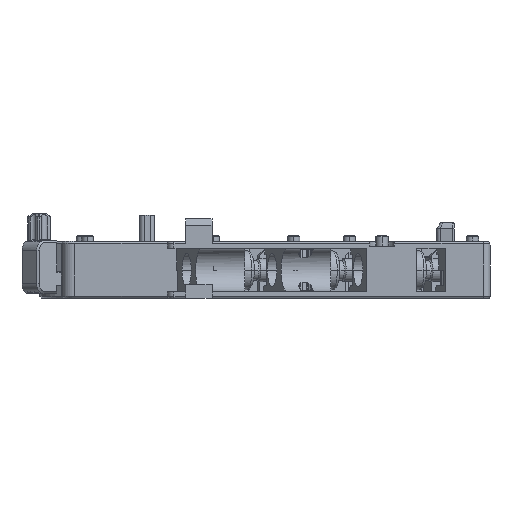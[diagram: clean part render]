
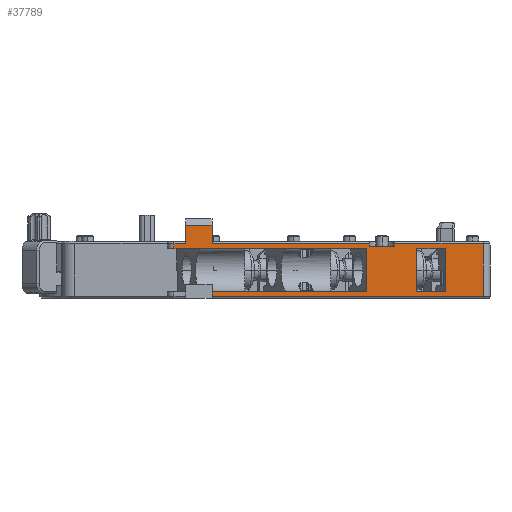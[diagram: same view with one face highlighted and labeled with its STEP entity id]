
A CAD part, left-side view. The second image highlights one B-rep face of the part: STEP entity #37789.
In plain terms, the highlighted planar face has unit normal (-1, 0, 0).
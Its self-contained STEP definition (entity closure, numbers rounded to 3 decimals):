
#649=DIRECTION('',(0.,0.,1.));
#650=VECTOR('',#649,8.05);
#651=CARTESIAN_POINT('',(-48.,-50.5,-4.));
#652=LINE('',#651,#650);
#667=DIRECTION('',(0.,0.,-1.));
#668=VECTOR('',#667,0.75);
#669=CARTESIAN_POINT('',(-48.,-3.2,4.05));
#670=LINE('',#669,#668);
#671=DIRECTION('',(0.,-1.,0.));
#672=VECTOR('',#671,1.81);
#673=CARTESIAN_POINT('',(-48.,-3.2,4.05));
#674=LINE('',#673,#672);
#675=DIRECTION('',(0.,1.,0.));
#676=VECTOR('',#675,4.);
#677=CARTESIAN_POINT('',(-48.,-9.01,6.85));
#678=LINE('',#677,#676);
#679=DIRECTION('',(0.,0.,1.));
#680=VECTOR('',#679,0.4);
#681=CARTESIAN_POINT('',(-48.,-33.1,3.65));
#682=LINE('',#681,#680);
#683=DIRECTION('',(0.,1.,0.));
#684=VECTOR('',#683,3.8);
#685=CARTESIAN_POINT('',(-48.,-36.9,3.65));
#686=LINE('',#685,#684);
#687=DIRECTION('',(0.,0.,1.));
#688=VECTOR('',#687,0.4);
#689=CARTESIAN_POINT('',(-48.,-36.9,3.65));
#690=LINE('',#689,#688);
#691=DIRECTION('',(0.,1.,0.));
#692=VECTOR('',#691,41.478);
#693=CARTESIAN_POINT('',(-48.,-50.5,-4.));
#694=LINE('',#693,#692);
#695=DIRECTION('',(0.,0.,1.));
#696=VECTOR('',#695,0.7);
#697=CARTESIAN_POINT('',(-48.,-9.023,-4.));
#698=LINE('',#697,#696);
#699=DIRECTION('',(0.,1.,0.));
#700=VECTOR('',#699,4.344);
#701=CARTESIAN_POINT('',(-48.,-44.661,-3.3));
#702=LINE('',#701,#700);
#715=DIRECTION('',(0.,0.,-1.));
#716=VECTOR('',#715,6.6);
#717=CARTESIAN_POINT('',(-48.,-32.697,3.3));
#718=LINE('',#717,#716);
#1701=DIRECTION('',(0.,1.,0.));
#1702=VECTOR('',#1701,29.497);
#1703=CARTESIAN_POINT('',(-48.,-32.697,3.3));
#1704=LINE('',#1703,#1702);
#6590=DIRECTION('',(0.,1.,0.));
#6591=VECTOR('',#6590,13.6);
#6592=CARTESIAN_POINT('',(-48.,-50.5,4.05));
#6593=LINE('',#6592,#6591);
#6607=DIRECTION('',(0.,1.,0.));
#6608=VECTOR('',#6607,24.09);
#6609=CARTESIAN_POINT('',(-48.,-33.1,4.05));
#6610=LINE('',#6609,#6608);
#6616=DIRECTION('',(0.,0.,1.));
#6617=VECTOR('',#6616,2.8);
#6618=CARTESIAN_POINT('',(-48.,-9.01,4.05));
#6619=LINE('',#6618,#6617);
#6644=DIRECTION('',(0.,0.,-1.));
#6645=VECTOR('',#6644,2.8);
#6646=CARTESIAN_POINT('',(-48.,-5.01,6.85));
#6647=LINE('',#6646,#6645);
#7783=DIRECTION('',(0.,1.,0.));
#7784=VECTOR('',#7783,23.675);
#7785=CARTESIAN_POINT('',(-48.,-32.697,-3.3));
#7786=LINE('',#7785,#7784);
#21419=DIRECTION('',(0.,0.,-1.));
#21420=VECTOR('',#21419,6.6);
#21421=CARTESIAN_POINT('',(-48.,-44.661,3.3));
#21422=LINE('',#21421,#21420);
#22789=DIRECTION('',(0.,0.,1.));
#22790=VECTOR('',#22789,6.6);
#22791=CARTESIAN_POINT('',(-48.,-40.317,-3.3));
#22792=LINE('',#22791,#22790);
#22801=DIRECTION('',(0.,1.,0.));
#22802=VECTOR('',#22801,4.344);
#22803=CARTESIAN_POINT('',(-48.,-44.661,3.3));
#22804=LINE('',#22803,#22802);
#29481=CARTESIAN_POINT('',(-48.,-44.661,-3.3));
#29482=CARTESIAN_POINT('',(-48.,-40.317,-3.3));
#29483=VERTEX_POINT('',#29481);
#29484=VERTEX_POINT('',#29482);
#29511=CARTESIAN_POINT('',(-48.,-32.697,-3.3));
#29512=CARTESIAN_POINT('',(-48.,-9.023,-3.3));
#29513=VERTEX_POINT('',#29511);
#29514=VERTEX_POINT('',#29512);
#30425=CARTESIAN_POINT('',(-48.,-9.023,-4.));
#30427=VERTEX_POINT('',#30425);
#30428=CARTESIAN_POINT('',(-48.,-50.5,-4.));
#30429=VERTEX_POINT('',#30428);
#33750=CARTESIAN_POINT('',(-48.,-32.697,3.3));
#33751=VERTEX_POINT('',#33750);
#33838=CARTESIAN_POINT('',(-48.,-44.661,3.3));
#33839=CARTESIAN_POINT('',(-48.,-40.317,3.3));
#33840=VERTEX_POINT('',#33838);
#33841=VERTEX_POINT('',#33839);
#33910=CARTESIAN_POINT('',(-48.,-5.01,6.85));
#33912=VERTEX_POINT('',#33910);
#33916=CARTESIAN_POINT('',(-48.,-9.01,6.85));
#33917=VERTEX_POINT('',#33916);
#34508=CARTESIAN_POINT('',(-48.,-9.01,4.05));
#34510=VERTEX_POINT('',#34508);
#34519=CARTESIAN_POINT('',(-48.,-5.01,4.05));
#34520=VERTEX_POINT('',#34519);
#35005=CARTESIAN_POINT('',(-48.,-3.2,3.3));
#35007=VERTEX_POINT('',#35005);
#35023=CARTESIAN_POINT('',(-48.,-50.5,4.05));
#35024=VERTEX_POINT('',#35023);
#35028=CARTESIAN_POINT('',(-48.,-3.2,4.05));
#35030=VERTEX_POINT('',#35028);
#35914=CARTESIAN_POINT('',(-48.,-36.9,3.65));
#35915=CARTESIAN_POINT('',(-48.,-33.1,3.65));
#35916=VERTEX_POINT('',#35914);
#35917=VERTEX_POINT('',#35915);
#35918=CARTESIAN_POINT('',(-48.,-33.1,4.05));
#35919=VERTEX_POINT('',#35918);
#35920=CARTESIAN_POINT('',(-48.,-36.9,4.05));
#35921=VERTEX_POINT('',#35920);
#37741=CARTESIAN_POINT('',(-48.,14.,-4.3));
#37742=DIRECTION('',(-1.,0.,0.));
#37743=DIRECTION('',(0.,-1.,0.));
#37744=AXIS2_PLACEMENT_3D('',#37741,#37742,#37743);
#37745=PLANE('',#37744);
#37747=ORIENTED_EDGE('',*,*,#37746,.F.);
#37749=ORIENTED_EDGE('',*,*,#37748,.T.);
#37751=ORIENTED_EDGE('',*,*,#37750,.F.);
#37753=ORIENTED_EDGE('',*,*,#37752,.T.);
#37755=ORIENTED_EDGE('',*,*,#37754,.F.);
#37757=ORIENTED_EDGE('',*,*,#37756,.F.);
#37759=ORIENTED_EDGE('',*,*,#37758,.F.);
#37761=ORIENTED_EDGE('',*,*,#37760,.F.);
#37763=ORIENTED_EDGE('',*,*,#37762,.F.);
#37765=ORIENTED_EDGE('',*,*,#37764,.F.);
#37767=ORIENTED_EDGE('',*,*,#37766,.T.);
#37769=ORIENTED_EDGE('',*,*,#37768,.F.);
#37770=ORIENTED_EDGE('',*,*,#37731,.F.);
#37772=ORIENTED_EDGE('',*,*,#37771,.T.);
#37774=ORIENTED_EDGE('',*,*,#37773,.T.);
#37776=ORIENTED_EDGE('',*,*,#37775,.F.);
#37777=EDGE_LOOP('',(#37747,#37749,#37751,#37753,#37755,#37757,#37759,#37761,
#37763,#37765,#37767,#37769,#37770,#37772,#37774,#37776));
#37778=FACE_OUTER_BOUND('',#37777,.F.);
#37780=ORIENTED_EDGE('',*,*,#37779,.F.);
#37782=ORIENTED_EDGE('',*,*,#37781,.T.);
#37784=ORIENTED_EDGE('',*,*,#37783,.F.);
#37786=ORIENTED_EDGE('',*,*,#37785,.F.);
#37787=EDGE_LOOP('',(#37780,#37782,#37784,#37786));
#37788=FACE_BOUND('',#37787,.F.);
#37789=ADVANCED_FACE('',(#37778,#37788),#37745,.T.);
#37731=EDGE_CURVE('',#30429,#35024,#652,.T.);
#37746=EDGE_CURVE('',#33751,#29513,#718,.T.);
#37748=EDGE_CURVE('',#33751,#35007,#1704,.T.);
#37750=EDGE_CURVE('',#35030,#35007,#670,.T.);
#37752=EDGE_CURVE('',#35030,#34520,#674,.T.);
#37754=EDGE_CURVE('',#33912,#34520,#6647,.T.);
#37756=EDGE_CURVE('',#33917,#33912,#678,.T.);
#37758=EDGE_CURVE('',#34510,#33917,#6619,.T.);
#37760=EDGE_CURVE('',#35919,#34510,#6610,.T.);
#37762=EDGE_CURVE('',#35917,#35919,#682,.T.);
#37764=EDGE_CURVE('',#35916,#35917,#686,.T.);
#37766=EDGE_CURVE('',#35916,#35921,#690,.T.);
#37768=EDGE_CURVE('',#35024,#35921,#6593,.T.);
#37771=EDGE_CURVE('',#30429,#30427,#694,.T.);
#37773=EDGE_CURVE('',#30427,#29514,#698,.T.);
#37775=EDGE_CURVE('',#29513,#29514,#7786,.T.);
#37779=EDGE_CURVE('',#33840,#29483,#21422,.T.);
#37781=EDGE_CURVE('',#33840,#33841,#22804,.T.);
#37783=EDGE_CURVE('',#29484,#33841,#22792,.T.);
#37785=EDGE_CURVE('',#29483,#29484,#702,.T.);
